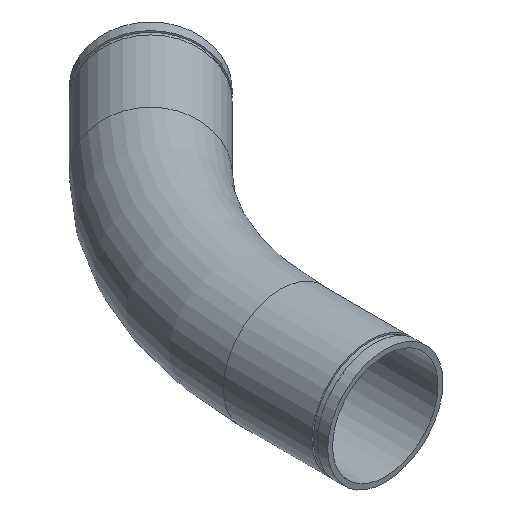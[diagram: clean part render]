
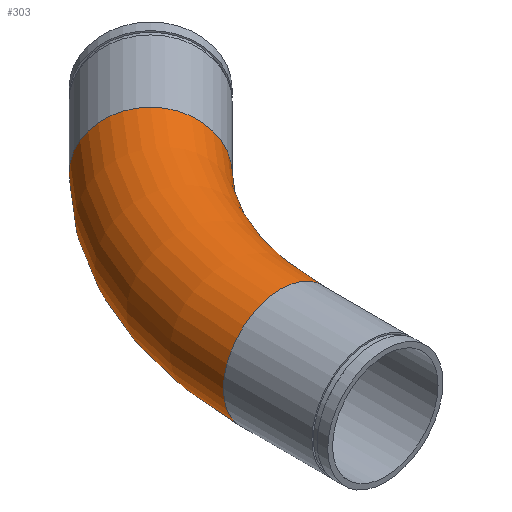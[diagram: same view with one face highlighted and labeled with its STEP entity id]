
A CAD part, isometric view. The second image highlights one B-rep face of the part: STEP entity #303.
In plain terms, the highlighted toroidal (fillet/blend) face has major radius 459.908 mm and minor radius 84.138 mm.
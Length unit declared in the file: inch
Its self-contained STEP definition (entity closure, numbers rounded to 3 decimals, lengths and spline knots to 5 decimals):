
#46=TOROIDAL_SURFACE('',#362,18.1066,3.3125);
#71=FACE_OUTER_BOUND('',#91,.T.);
#91=EDGE_LOOP('',(#250,#251,#252,#253,#254,#255));
#134=CIRCLE('',#360,3.3125);
#135=CIRCLE('',#361,3.3125);
#136=CIRCLE('',#363,14.7941);
#137=CIRCLE('',#364,3.3125);
#138=CIRCLE('',#365,3.3125);
#159=VERTEX_POINT('',#562);
#160=VERTEX_POINT('',#564);
#161=VERTEX_POINT('',#568);
#162=VERTEX_POINT('',#570);
#191=EDGE_CURVE('',#160,#159,#134,.T.);
#192=EDGE_CURVE('',#159,#160,#135,.T.);
#193=EDGE_CURVE('',#160,#161,#136,.T.);
#194=EDGE_CURVE('',#162,#161,#137,.T.);
#195=EDGE_CURVE('',#161,#162,#138,.T.);
#250=ORIENTED_EDGE('',*,*,#192,.T.);
#251=ORIENTED_EDGE('',*,*,#193,.T.);
#252=ORIENTED_EDGE('',*,*,#194,.F.);
#253=ORIENTED_EDGE('',*,*,#195,.F.);
#254=ORIENTED_EDGE('',*,*,#193,.F.);
#255=ORIENTED_EDGE('',*,*,#191,.T.);
#303=ADVANCED_FACE('',(#71),#46,.T.);
#360=AXIS2_PLACEMENT_3D('',#565,#457,#458);
#361=AXIS2_PLACEMENT_3D('',#566,#459,#460);
#362=AXIS2_PLACEMENT_3D('',#567,#461,#462);
#363=AXIS2_PLACEMENT_3D('',#569,#463,#464);
#364=AXIS2_PLACEMENT_3D('',#571,#465,#466);
#365=AXIS2_PLACEMENT_3D('',#572,#467,#468);
#457=DIRECTION('center_axis',(0.,1.,0.));
#458=DIRECTION('ref_axis',(1.,0.,0.));
#459=DIRECTION('center_axis',(0.,1.,0.));
#460=DIRECTION('ref_axis',(1.,0.,0.));
#461=DIRECTION('center_axis',(0.,0.,1.));
#462=DIRECTION('ref_axis',(1.,0.,0.));
#463=DIRECTION('center_axis',(0.,0.,-1.));
#464=DIRECTION('ref_axis',(1.,0.,0.));
#465=DIRECTION('center_axis',(0.707,0.707,0.));
#466=DIRECTION('ref_axis',(0.707,-0.707,0.));
#467=DIRECTION('center_axis',(0.707,0.707,0.));
#468=DIRECTION('ref_axis',(0.707,-0.707,0.));
#562=CARTESIAN_POINT('',(-3.3125,-7.5,0.));
#564=CARTESIAN_POINT('',(3.3125,-7.5,0.));
#565=CARTESIAN_POINT('Origin',(0.,-7.5,0.));
#566=CARTESIAN_POINT('Origin',(0.,-7.5,0.));
#567=CARTESIAN_POINT('Origin',(18.1066,-7.5,0.));
#568=CARTESIAN_POINT('',(7.64559,2.96101,0.));
#569=CARTESIAN_POINT('Origin',(18.1066,-7.5,0.));
#570=CARTESIAN_POINT('',(2.96101,7.64559,0.));
#571=CARTESIAN_POINT('Origin',(5.3033,5.3033,0.));
#572=CARTESIAN_POINT('Origin',(5.3033,5.3033,0.));
